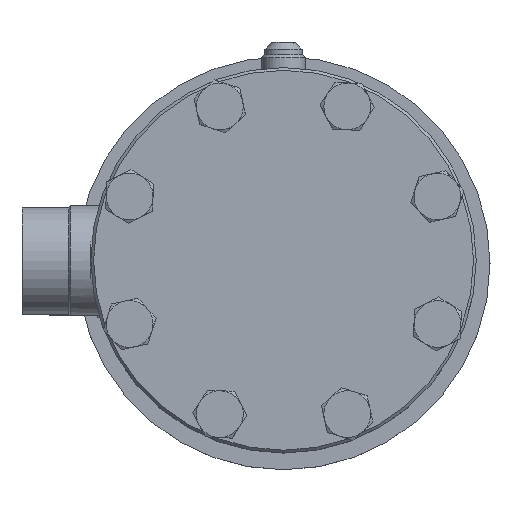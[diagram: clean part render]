
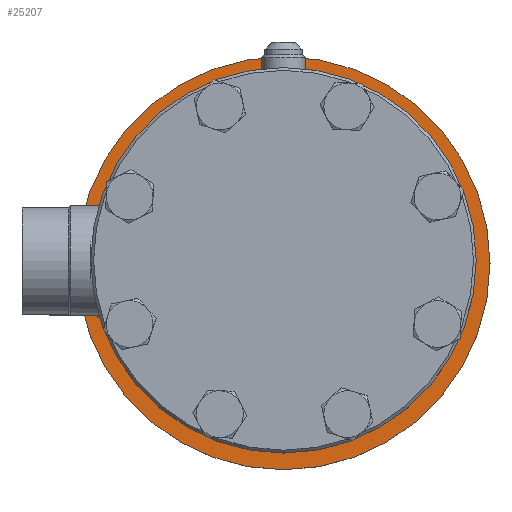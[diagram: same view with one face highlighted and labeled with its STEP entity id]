
A CAD part, top view. The second image highlights one B-rep face of the part: STEP entity #25207.
In plain terms, the highlighted planar face has unit normal (0, 0, 1).
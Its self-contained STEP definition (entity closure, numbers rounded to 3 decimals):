
#2131=FACE_BOUND('',#8551,.T.);
#2132=FACE_BOUND('',#8552,.T.);
#2133=FACE_BOUND('',#8553,.T.);
#2134=FACE_BOUND('',#8554,.T.);
#2135=FACE_BOUND('',#8555,.T.);
#6970=FACE_OUTER_BOUND('',#8550,.T.);
#8550=EDGE_LOOP('',(#22313));
#8551=EDGE_LOOP('',(#22314));
#8552=EDGE_LOOP('',(#22315));
#8553=EDGE_LOOP('',(#22316));
#8554=EDGE_LOOP('',(#22317));
#8555=EDGE_LOOP('',(#22318));
#9358=CIRCLE('',#27039,75.);
#9359=CIRCLE('',#27041,5.5);
#9360=CIRCLE('',#27043,5.5);
#9361=CIRCLE('',#27045,5.5);
#9362=CIRCLE('',#27047,5.5);
#9364=CIRCLE('',#27051,32.184);
#11735=VERTEX_POINT('',#53100);
#11736=VERTEX_POINT('',#53103);
#11737=VERTEX_POINT('',#53106);
#11738=VERTEX_POINT('',#53109);
#11739=VERTEX_POINT('',#53112);
#11741=VERTEX_POINT('',#53118);
#15331=EDGE_CURVE('',#11735,#11735,#9358,.T.);
#15332=EDGE_CURVE('',#11736,#11736,#9359,.T.);
#15333=EDGE_CURVE('',#11737,#11737,#9360,.T.);
#15334=EDGE_CURVE('',#11738,#11738,#9361,.T.);
#15335=EDGE_CURVE('',#11739,#11739,#9362,.T.);
#15337=EDGE_CURVE('',#11741,#11741,#9364,.T.);
#22313=ORIENTED_EDGE('',*,*,#15331,.F.);
#22314=ORIENTED_EDGE('',*,*,#15337,.T.);
#22315=ORIENTED_EDGE('',*,*,#15332,.T.);
#22316=ORIENTED_EDGE('',*,*,#15333,.T.);
#22317=ORIENTED_EDGE('',*,*,#15334,.T.);
#22318=ORIENTED_EDGE('',*,*,#15335,.T.);
#23887=PLANE('',#27050);
#25207=ADVANCED_FACE('',(#6970,#2131,#2132,#2133,#2134,#2135),#23887,.F.);
#27039=AXIS2_PLACEMENT_3D('',#53101,#32188,#32189);
#27041=AXIS2_PLACEMENT_3D('',#53104,#32192,#32193);
#27043=AXIS2_PLACEMENT_3D('',#53107,#32196,#32197);
#27045=AXIS2_PLACEMENT_3D('',#53110,#32200,#32201);
#27047=AXIS2_PLACEMENT_3D('',#53113,#32204,#32205);
#27050=AXIS2_PLACEMENT_3D('',#53117,#32210,#32211);
#27051=AXIS2_PLACEMENT_3D('',#53119,#32212,#32213);
#32188=DIRECTION('center_axis',(0.,0.,
-1.));
#32189=DIRECTION('ref_axis',(1.,0.,0.));
#32192=DIRECTION('center_axis',(0.,0.,
-1.));
#32193=DIRECTION('ref_axis',(-1.,0.,0.));
#32196=DIRECTION('center_axis',(0.,0.,
-1.));
#32197=DIRECTION('ref_axis',(0.,-1.,0.));
#32200=DIRECTION('center_axis',(0.,0.,
-1.));
#32201=DIRECTION('ref_axis',(1.,0.,0.));
#32204=DIRECTION('center_axis',(0.,0.,
-1.));
#32205=DIRECTION('ref_axis',(0.,1.,0.));
#32210=DIRECTION('center_axis',(0.,0.,
-1.));
#32211=DIRECTION('ref_axis',(1.,0.,0.));
#32212=DIRECTION('center_axis',(0.,0.,
-1.));
#32213=DIRECTION('ref_axis',(1.,0.,0.));
#53100=CARTESIAN_POINT('',(-80.,0.,-303.842));
#53101=CARTESIAN_POINT('Origin',(-5.,0.,
-303.842));
#53103=CARTESIAN_POINT('',(-70.5,0.,-303.842));
#53104=CARTESIAN_POINT('Origin',(-65.,0.,
-303.842));
#53106=CARTESIAN_POINT('',(-5.,-65.5,-303.842));
#53107=CARTESIAN_POINT('Origin',(-5.,-60.,-303.842));
#53109=CARTESIAN_POINT('',(60.5,0.,-303.842));
#53110=CARTESIAN_POINT('Origin',(55.,0.,-303.842));
#53112=CARTESIAN_POINT('',(-5.,65.5,-303.842));
#53113=CARTESIAN_POINT('Origin',(-5.,60.,-303.842));
#53117=CARTESIAN_POINT('Origin',(-5.,0.,
-303.842));
#53118=CARTESIAN_POINT('',(27.184,0.,-303.842));
#53119=CARTESIAN_POINT('Origin',(-5.,0.,
-303.842));
